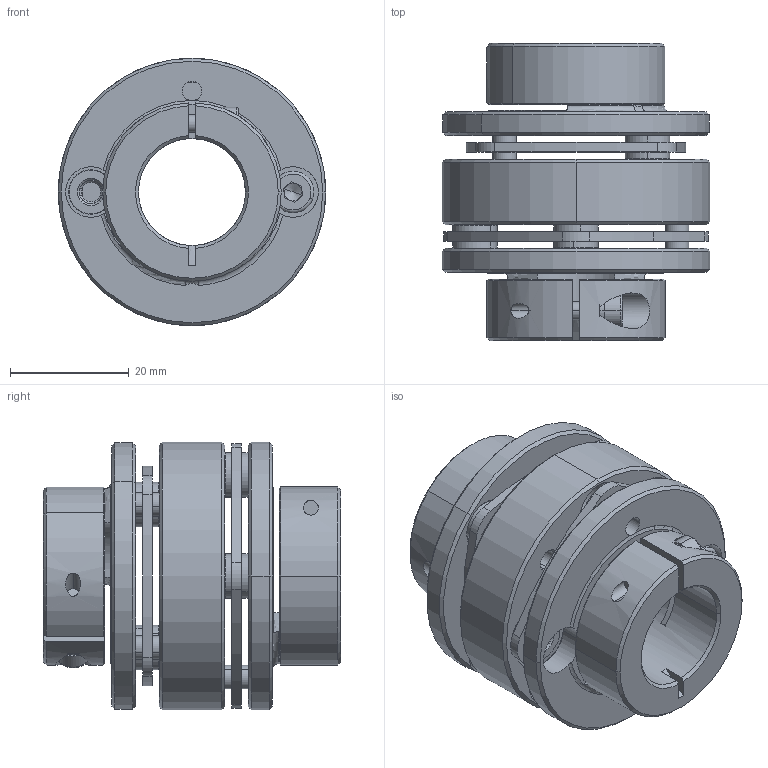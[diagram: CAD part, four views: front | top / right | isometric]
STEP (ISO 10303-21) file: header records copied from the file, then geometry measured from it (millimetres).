
FILE_DESCRIPTION (( 'STEP AP203' ), '1' );
FILE_NAME ('LE2-B-D45L50-18-18.STEP', '2021-11-01T06:52:22', ( '' ), ( '' ), 'SwSTEP 2.0', 'SolidWorks 2018', '' );
FILE_SCHEMA (( 'CONFIG_CONTROL_DESIGN' ));
Length unit declared in the file: millimetre
Products named in the file (1): LE2-B-D45L50-18-18
Bounding box: 45 x 50 x 45 mm (x, y, z)
Volume: 32702.1 mm3; surface area: 22842.5 mm2
Topology: 1 solids, 5 shells, 498 faces, 1200 edges, 736 vertices
Faces by surface type: cylinder 182, cone 154, plane 142, torus 18, bspline 2
Entity records: 15025 total; most frequent: CARTESIAN_POINT 2871, DIRECTION 2770, ORIENTED_EDGE 2376, EDGE_CURVE 1188, AXIS2_PLACEMENT_3D 1133, VERTEX_POINT 736, CIRCLE 636, EDGE_LOOP 592
